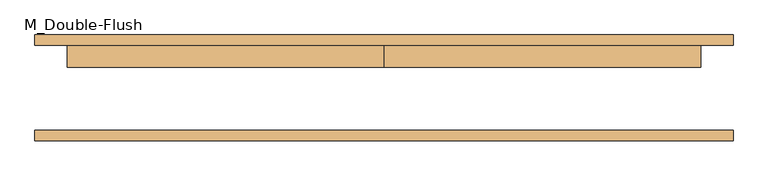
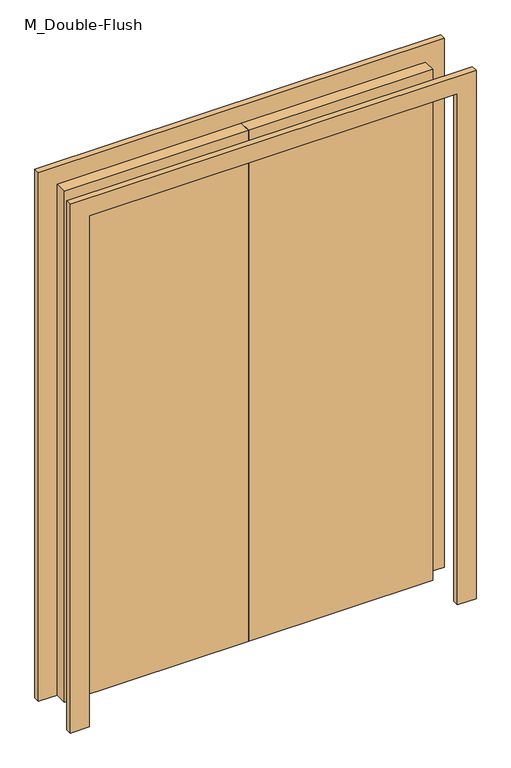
"""IFC4 building model written with IfcOpenShell, lengths in millimetres: door geometry, M_Double-Flush : ب 2."""

from ifc_helpers import new_model, si_unit, frame, origin, origin_with_axes, place, context, project, spatial, polyline, outline, extrude, source, transform, mapped, element, save


def m_double_flush_4a17c8f0(model_context):
    return source(origin(), model_context, "Body", "SweptSolid", [
        extrude(outline(polyline([(0.0, 100.0), (750.0, 100.0), (750.0, 49.0), (0.0, 49.0), (0.0, 100.0)])), origin_with_axes(), (0.0, 0.0, 1.0), 2200.0),
        extrude(outline(polyline([(-750.0, 100.0), (0.0, 100.0), (0.0, 49.0), (-750.0, 49.0), (-750.0, 100.0)])), origin_with_axes(), (0.0, 0.0, 1.0), 2200.0),
        extrude(outline(polyline([(2200.0, -750.0), (2200.0, 750.0), (0.0, 750.0), (0.0, 826.0), (2276.0, 826.0), (2276.0, -826.0), (0.0, -826.0), (0.0, -750.0), (2200.0, -750.0)])), frame((0.0, -125.0, 0.0), z_axis=(0.0, 1.0, 0.0), x_axis=(0.0, 0.0, 1.0)), (0.0, 0.0, 1.0), 25.0),
        extrude(outline(polyline([(2200.0, -750.0), (2200.0, 750.0), (0.0, 750.0), (0.0, 826.0), (2276.0, 826.0), (2276.0, -826.0), (0.0, -826.0), (0.0, -750.0), (2200.0, -750.0)])), frame((0.0, 100.0, 0.0), z_axis=(0.0, 1.0, 0.0), x_axis=(0.0, 0.0, 1.0)), (0.0, 0.0, 1.0), 25.0),
    ])


if __name__ == "__main__":
    model = new_model("IFC4")
    model_context = context("Model", 3, world=origin())
    ifc_project = project(units=[si_unit("LENGTHUNIT", "METRE", prefix="MILLI")], contexts=[model_context])
    site = spatial("IfcSite", under=ifc_project)
    building = spatial("IfcBuilding", under=site)
    placement = place(None, origin())
    m_double_flush_shape = m_double_flush_4a17c8f0(model_context)
    element("IfcDoor", 1, ObjectType="M_Double-Flush : ب 2", at=placement, inside=building, context=model_context, shape_type="MappedRepresentation", body=[
        mapped(m_double_flush_shape, transform((0.0, 0.0, 0.0), x_axis=(1.0, 0.0, 0.0), y_axis=(0.0, 1.0, 0.0), z_axis=(0.0, 0.0, 1.0))),
    ])
    save(model, "model.ifc")
